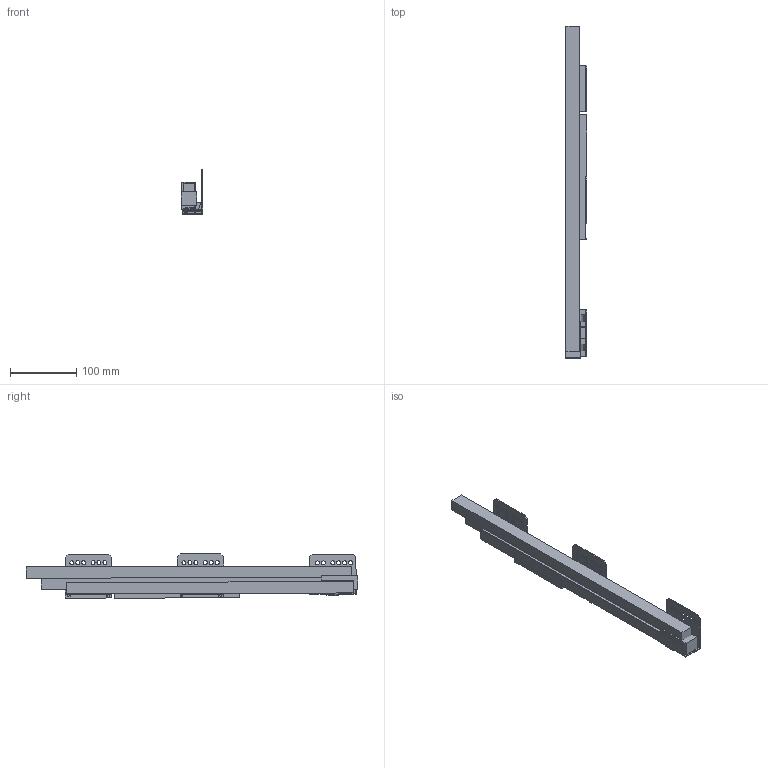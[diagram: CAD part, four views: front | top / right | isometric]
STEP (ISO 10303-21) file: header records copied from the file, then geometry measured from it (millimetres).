
FILE_DESCRIPTION (( 'STEP AP214' ), '1' );
FILE_NAME ('_IMOS Dynamic-XP VA 60kg NL500 RE.step', '2010-07-07T08:07:41', ( 'grass' ), ( '' ), 'SwSTEP 2.0', 'SolidWorks 2010', '' );
FILE_SCHEMA (( 'AUTOMOTIVE_DESIGN' ));
Length unit declared in the file: millimetre
Products named in the file (1): _IMOS Dynamic-XP VA 60kg NL500 RE
Bounding box: 32.79 x 499.89 x 66.67 mm (x, y, z)
Volume: 459848.3 mm3; surface area: 175709.9 mm2
Topology: 8 solids, 8 shells, 205 faces, 567 edges, 378 vertices
Faces by surface type: plane 141, cylinder 64
Entity records: 6754 total; most frequent: CARTESIAN_POINT 1151, ORIENTED_EDGE 1134, DIRECTION 1107, EDGE_CURVE 567, VECTOR 439, LINE 439, VERTEX_POINT 378, AXIS2_PLACEMENT_3D 334
